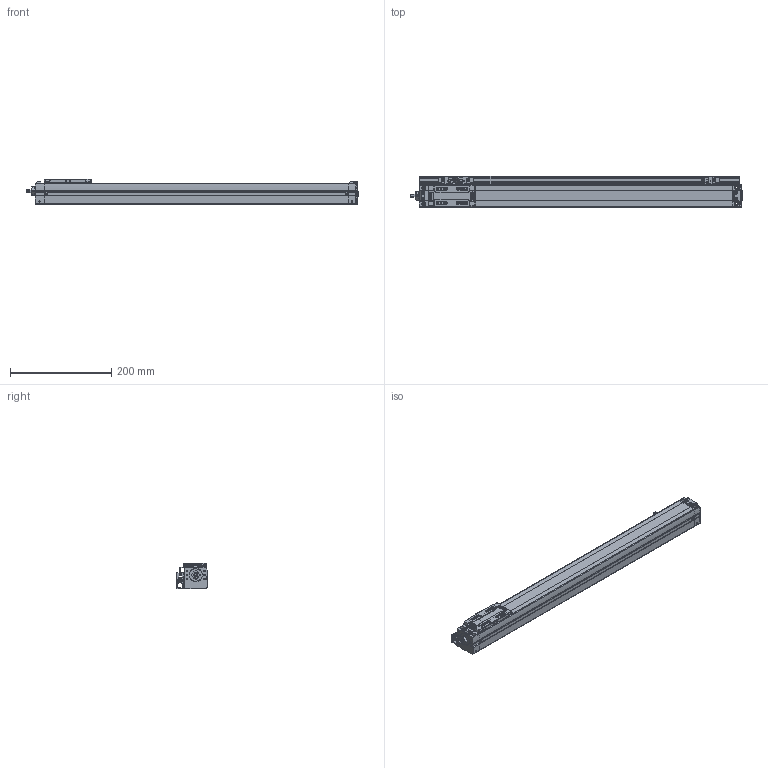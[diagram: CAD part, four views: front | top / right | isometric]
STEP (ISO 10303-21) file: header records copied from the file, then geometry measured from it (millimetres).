
FILE_DESCRIPTION(('STEP AP214'),'1');
FILE_NAME('Z:/Web/3D/SAN45/STP/SAN45ㅁㅁ-500+3SL.stp','2012-06-15T07:21:32',(' '),(' '),'Spatial InterOp 3D',' ',' ');
FILE_SCHEMA(('automotive_design'));
Length unit declared in the file: metre
Products named in the file (51): SAN45__-500; BODY-SAN45; REAR-SAN45; RRCV-SAN45; BHCS M3 x 6L; BHCS M3 X 6L; FRONT-SAN45; SHAFT; RN8 x 0.75; SSFX-SAN45; SLIDE-SAN45; SLCV-IM45; FHCS M3 x 6L; ____80; 3SL; SRL-16x17-380L; - OT; EE-SX674; SBK-SX674-352; HOME; + OT; DOG; SDG-SA45; SCREW M3 x 5L
Assembly tree (50 placements, depth 4):
  ____80
    SAN45__-500
      BODY-SAN45
      REAR-SAN45
        REAR-SAN45
        RRCV-SAN45
        BHCS M3 x 6L
        BHCS M3 X 6L
        BHCS M3 x 6L
        BHCS M3 x 6L
        BHCS M3 x 6L
        BHCS M3 x 6L
      FRONT-SAN45
        FRONT-SAN45
        SHAFT
        RN8 x 0.75
        SSFX-SAN45
        BHCS M3 x 6L
        BHCS M3 x 6L
        BHCS M3 x 6L
        BHCS M3 x 6L
      SLIDE-SAN45
        SLIDE-SAN45
        SLCV-IM45
        FHCS M3 x 6L
        FHCS M3 x 6L
        FHCS M3 x 6L
        FHCS M3 x 6L
    3SL
      SRL-16x17-380L
      BHCS M3 x 6L
      BHCS M3 x 6L
      - OT
        EE-SX674
        BHCS M3 x 6L
        BHCS M3 x 6L
        SBK-SX674-352
      HOME
        EE-SX674
        BHCS M3 x 6L
        BHCS M3 x 6L
        SBK-SX674-352
      + OT
        EE-SX674
        BHCS M3 x 6L
        BHCS M3 x 6L
        SBK-SX674-352
      DOG
        SDG-SA45
        SCREW M3 x 5L
        SCREW M3 x 5L
Bounding box: 654.65 x 62.06 x 50 mm (x, y, z)
Volume: 1235175.1 mm3; surface area: 246908 mm2
Topology: 41 solids, 41 shells, 1944 faces, 4950 edges, 3186 vertices
Faces by surface type: plane 1239, cylinder 500, cone 83, sphere 52, bspline 42, torus 25, extrusion 3
Full cylindrical faces by diameter (mm): 0.376 x2, 0.47 x1, 1.137 x2, 1.421 x1, 1.665 x4, 2.081 x2, 2.2 x4, 2.5 x19, 3 x6, 3.193 x4, 3.3 x4, 3.4 x4, 3.5 x14, 3.991 x2, 4.2 x14, 4.5 x4, 5 x3, 6 x6, 6.5 x2, 7 x1, 8 x8, 13 x1, 15 x1, 19 x1
Entity records: 77444 total; most frequent: CARTESIAN_POINT 14168, DIRECTION 9762, ORIENTED_EDGE 9286, EDGE_CURVE 4643, AXIS2_PLACEMENT_3D 3256, VECTOR 3250, LINE 3247, VERTEX_POINT 3132
